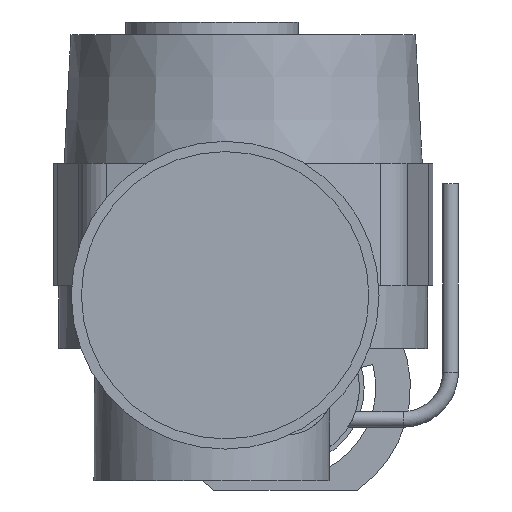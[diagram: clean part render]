
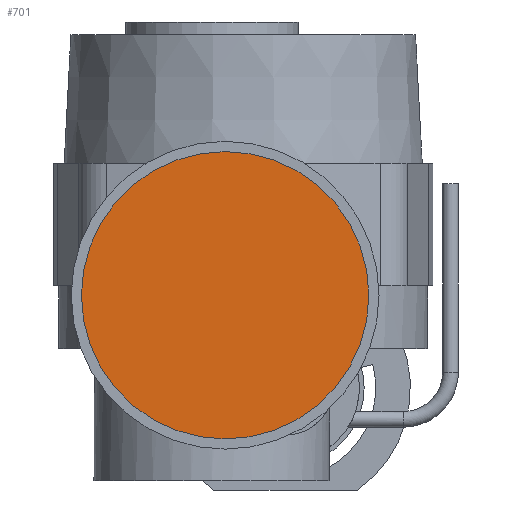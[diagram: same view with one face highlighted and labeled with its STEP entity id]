
A CAD part, front view. The second image highlights one B-rep face of the part: STEP entity #701.
In plain terms, the highlighted planar face has unit normal (0, -1, 0).
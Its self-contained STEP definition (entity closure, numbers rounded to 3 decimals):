
#701=ADVANCED_FACE('',(#1539),#1541,.T.);
#1539=FACE_BOUND('',#1540,.T.);
#1540=EDGE_LOOP('',(#2031));
#1541=PLANE('',#1542);
#1542=AXIS2_PLACEMENT_3D('',#1543,#1544,#1545);
#1543=CARTESIAN_POINT('',(-11.5,-233.,-6.));
#1544=DIRECTION('',(0.,-1.,0.));
#1545=DIRECTION('',(0.,0.,1.));
#2031=ORIENTED_EDGE('',*,*,#2288,.F.);
#2288=EDGE_CURVE('',#2586,#2586,#2587,.T.);
#2586=VERTEX_POINT('',#4024);
#2587=CIRCLE('',#4025,91.5);
#4024=CARTESIAN_POINT('',(-11.5,-233.,85.5));
#4025=AXIS2_PLACEMENT_3D('',#4026,#4027,#4028);
#4026=CARTESIAN_POINT('',(-11.5,-233.,-6.));
#4027=DIRECTION('',(-0.,1.,0.));
#4028=DIRECTION('',(0.,0.,1.));
